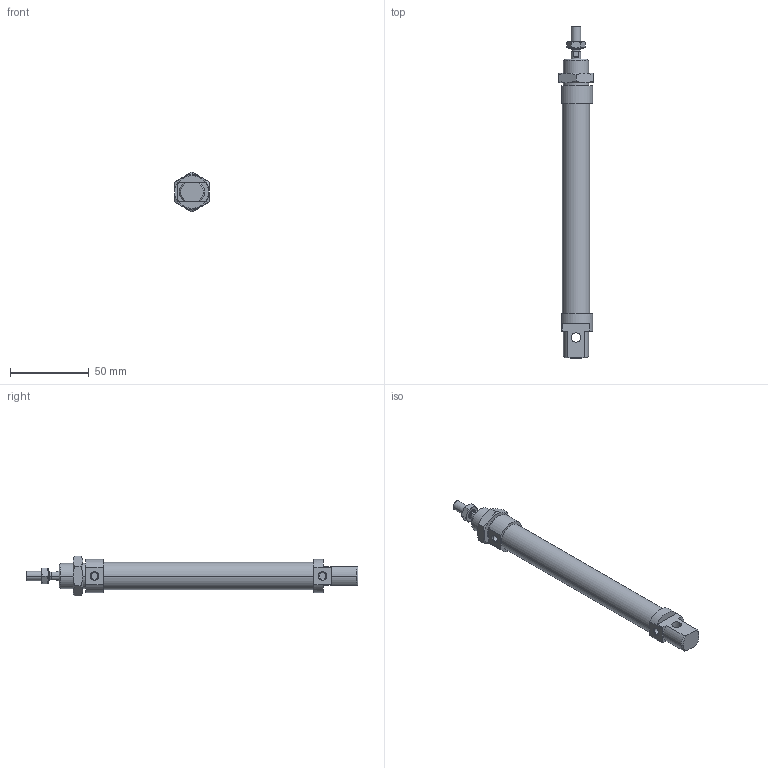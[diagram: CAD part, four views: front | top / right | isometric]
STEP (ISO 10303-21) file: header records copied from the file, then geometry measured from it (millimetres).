
FILE_DESCRIPTION((''),'2;1');
FILE_NAME('I:\DOC-EDP\Lib-3d\1200\CILINDRI\1280\1280_16_0100.stp','2003-04-07T15:03:48',('maffial1'),(''),'Autodesk Inventor (R) 6.0','Autodesk Inventor (R) 6.0','');
FILE_SCHEMA(('AUTOMOTIVE_DESIGN { 1 0 10303 214 1 1 1 1 }'));
Length unit declared in the file: millimetre
Products named in the file (5): 1280_16_0100; S1280_16_100; 1200_16_05; 1200_16_06; C1280_16_100
Assembly tree (4 placements, depth 2):
  1280_16_0100
    S1280_16_100
    1200_16_05
    1200_16_06
    C1280_16_100
Bounding box: 22 x 211 x 25.4 mm (x, y, z)
Volume: 46096.1 mm3; surface area: 18220.3 mm2
Topology: 4 solids, 4 shells, 121 faces, 268 edges, 162 vertices
Faces by surface type: cone 40, plane 39, cylinder 22, bspline 20
Entity records: 3653 total; most frequent: CARTESIAN_POINT 976, DIRECTION 556, ORIENTED_EDGE 536, EDGE_CURVE 268, AXIS2_PLACEMENT_3D 230, VERTEX_POINT 162, EDGE_LOOP 134, FACE_OUTER_BOUND 121
